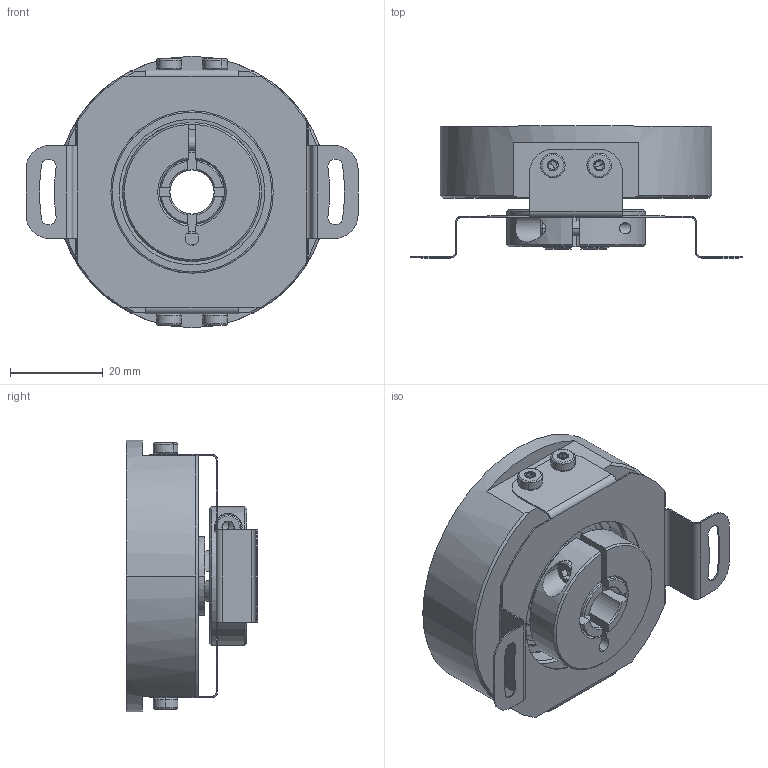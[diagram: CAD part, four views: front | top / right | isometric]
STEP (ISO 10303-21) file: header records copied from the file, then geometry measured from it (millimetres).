
FILE_DESCRIPTION (( 'STEP AP214' ), '1' );
FILE_NAME ('drawing-ucd-hsp0-q5b-n.STEP', '2017-05-19T07:44:50', ( '' ), ( '' ), 'SwSTEP 2.0', 'SolidWorks 2017', '' );
FILE_SCHEMA (( 'AUTOMOTIVE_DESIGN' ));
Length unit declared in the file: millimetre
Products named in the file (1): drawing-ucd-hsp0-q5b-n
Bounding box: 71.57 x 28.4 x 58.5 mm (x, y, z)
Volume: 39265.7 mm3; surface area: 27073 mm2
Topology: 22 solids, 22 shells, 821 faces, 1909 edges, 1102 vertices
Faces by surface type: cone 331, cylinder 249, plane 147, bspline 50, torus 44
Entity records: 34214 total; most frequent: CARTESIAN_POINT 6350, DIRECTION 4198, ORIENTED_EDGE 3718, EDGE_CURVE 1859, AXIS2_PLACEMENT_3D 1743, VERTEX_POINT 1102, CIRCLE 971, EDGE_LOOP 877
